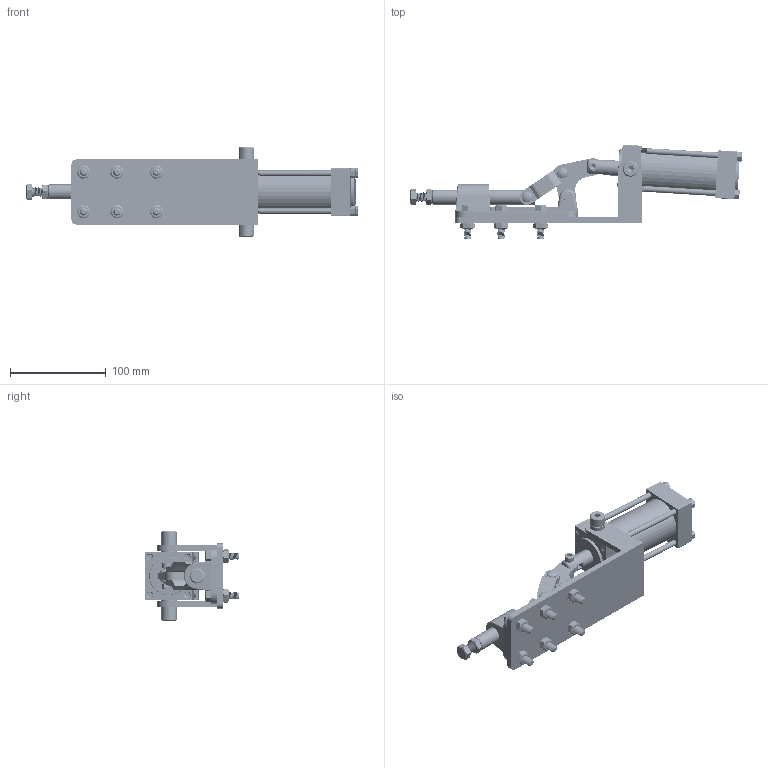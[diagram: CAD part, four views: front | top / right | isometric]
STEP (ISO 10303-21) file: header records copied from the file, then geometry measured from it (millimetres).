
FILE_DESCRIPTION(/* description */ ('STEP AP203'),/* implementation_level */ '2;1');
FILE_NAME(/* name */ 'D:\Vault_2016\Projekty\STRONA\Pneumatic toggle clamp\CH-36330-A\CH-36330-A_OTWARTY.stp',/* time_stamp */ '2019-01-29T12:07:41+01:00',/* author */ ('user'),/* organization */ ('Î¢ÈíÖÐ¹ú'),/* preprocessor_version */ 'ST-DEVELOPER v17.2',/* originating_system */ 'Autodesk Inventor 2019',/* authorisation */ '');
FILE_SCHEMA (('AUTOMOTIVE_DESIGN { 1 0 10303 214 3 1 1 }'));
Products named in the file (20): CH-36330-A_OTWARTY; M6-20_Ä¬ÈÏ; CH-36330-04_Ä¬ÈÏ; M10_Ä¬ÈÏ; Air cylinder-2_Ä¬ÈÏ; CH-36330-01_Ä¬ÈÏ; 22RIVET_Ä¬ÈÏ; M10-50_Ä¬ÈÏ; CH-36330-02_Ä¬ÈÏ; CH-36330-A-04_Ä¬ÈÏ; CH-36330-A-03_Ä¬ÈÏ; M6NUT_Ä¬ÈÏ; CH-36330-A-01_Ä¬ÈÏ_°´¼Ó
¹¤_; CH-36330-06_Ä¬ÈÏ; Air cylinder-1_Ä¬ÈÏ; 25RIVET_Ä¬ÈÏ; M10-20_Ä¬ÈÏ; M8-20_Ä¬ÈÏ; Air cylinder-3_Ä¬ÈÏ; M8_Ä¬ÈÏ
Assembly tree (34 placements, depth 2):
  CH-36330-A_OTWARTY
    M8_Ä¬ÈÏ  x6
    M10-20_Ä¬ÈÏ  x2
    M6-20_Ä¬ÈÏ
    CH-36330-A-03_Ä¬ÈÏ  x2
    Air cylinder-3_Ä¬ÈÏ  x4
    M8-20_Ä¬ÈÏ  x6
    CH-36330-04_Ä¬ÈÏ
    M10_Ä¬ÈÏ
    Air cylinder-2_Ä¬ÈÏ
    CH-36330-01_Ä¬ÈÏ
    22RIVET_Ä¬ÈÏ
    M10-50_Ä¬ÈÏ
    CH-36330-02_Ä¬ÈÏ
    CH-36330-A-04_Ä¬ÈÏ
    M6NUT_Ä¬ÈÏ
    CH-36330-A-01_Ä¬ÈÏ_°´¼Ó
¹¤_
    CH-36330-06_Ä¬ÈÏ
    Air cylinder-1_Ä¬ÈÏ
    25RIVET_Ä¬ÈÏ
Bounding box: 347.03 x 99.03 x 94 mm (x, y, z)
Volume: 483330 mm3; surface area: 164625 mm2
Topology: 37 solids, 37 shells, 840 faces, 2427 edges, 1701 vertices
Faces by surface type: plane 402, cylinder 194, bspline 134, cone 89, torus 19, sphere 2
Full cylindrical faces by diameter (mm): 6 x13, 6.1 x4, 6.2 x3, 6.5 x24, 6.6 x2, 7.364 x1, 7.94 x1, 8 x11, 8.05 x1, 8.4 x2, 8.7 x12, 10 x25, 11 x2, 15.6 x2, 16 x6, 16.1 x2, 40 x2, 45 x1
Entity records: 51245 total; most frequent: CARTESIAN_POINT 35404, ORIENTED_EDGE 3440, DIRECTION 2715, EDGE_CURVE 1720, VERTEX_POINT 1207, AXIS2_PLACEMENT_3D 982, LINE 751, VECTOR 751
